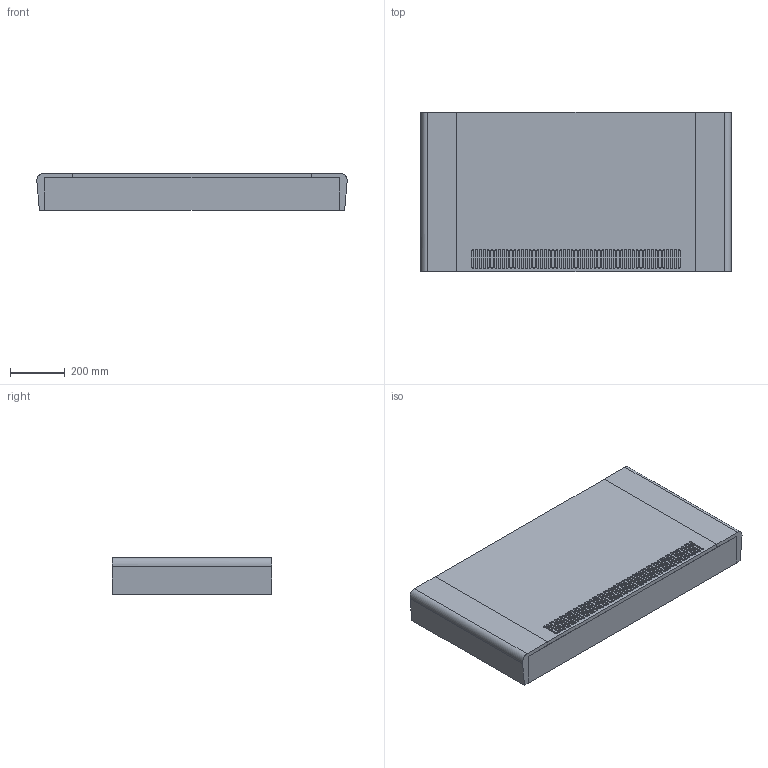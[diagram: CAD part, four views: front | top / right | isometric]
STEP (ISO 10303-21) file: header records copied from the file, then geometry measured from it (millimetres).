
FILE_DESCRIPTION (( 'STEP AP214' ), '1' );
FILE_NAME ('PFWSL_round_model03_4-pipe_v2.STEP', '2024-11-11T13:50:31', ( '' ), ( '' ), 'SwSTEP 2.0', 'SolidWorks 2023', '' );
FILE_SCHEMA (( 'AUTOMOTIVE_DESIGN' ));
Length unit declared in the file: inch
Products named in the file (1): PFWSL_round_model03_4-pipe_v2
Bounding box: 1135.02 x 582.61 x 134.94 mm (x, y, z)
Volume: 67356685.1 mm3; surface area: 3531468.4 mm2
Topology: 25 solids, 25 shells, 548 faces, 1432 edges, 952 vertices
Faces by surface type: plane 332, cylinder 206, torus 8, bspline 2
Entity records: 17503 total; most frequent: CARTESIAN_POINT 2959, DIRECTION 2950, ORIENTED_EDGE 2864, EDGE_CURVE 1432, LINE 1000, VECTOR 1000, AXIS2_PLACEMENT_3D 975, VERTEX_POINT 952
